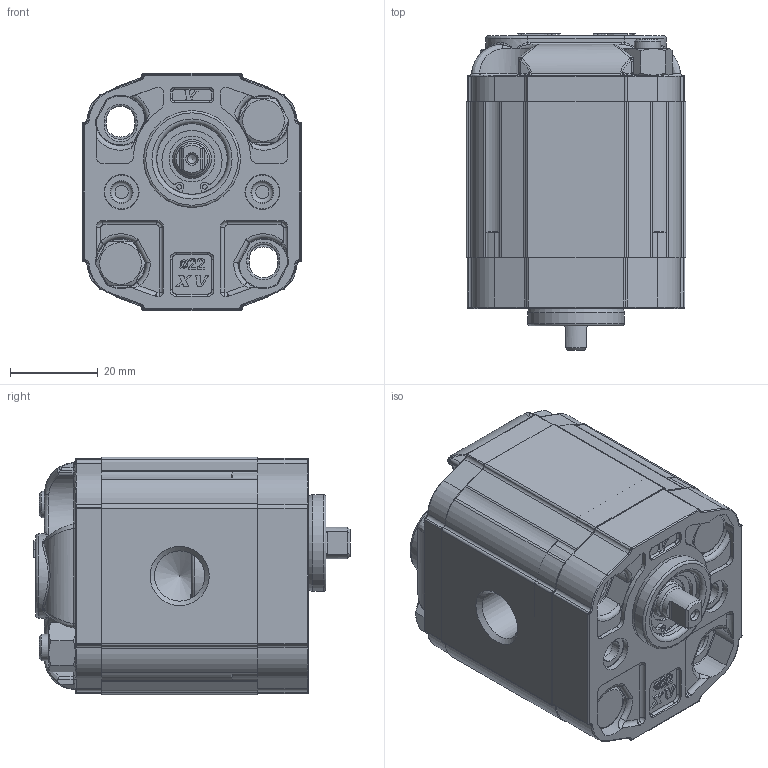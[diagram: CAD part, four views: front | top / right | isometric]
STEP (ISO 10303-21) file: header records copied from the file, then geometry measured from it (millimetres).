
FILE_DESCRIPTION( ( 'Unknown' ), '1' );
FILE_NAME( 'P:/montaggio_easy/output/STP/X0U0722BBBA.stp', 'Unknown', ( 'Unknown' ), ( 'Unknown' ), 'PSStep 14.0', 'Unknown', ' ' );
FILE_SCHEMA( ( 'AUTOMOTIVE_DESIGN { 1 0 10303 214 1 1 1 1 }' ) );
Length unit declared in the file: millimetre
Products named in the file (5): Assem1; X0U22; 0B; X0BBH35,5; XU017-A
Bounding box: 50 x 71.9 x 54 mm (x, y, z)
Surface area: 67382.9 mm2
Topology: 8 solids, 10 shells, 2870 faces, 7440 edges, 4732 vertices
Faces by surface type: plane 1414, cylinder 742, extrusion 248, torus 218, bspline 146, cone 86, sphere 16
Full cylindrical faces by diameter (mm): 1.053 x4, 2 x2, 5 x4, 6 x4, 6.5 x4, 7.16 x2, 7.5 x4, 7.9 x4, 7.92 x2, 8 x4, 9.318 x2, 10 x4, 10.445 x2, 11 x2, 11.445 x4, 14 x2, 16 x2, 16.2 x2, 16.8 x2, 22 x2
Entity records: 60597 total; most frequent: CARTESIAN_POINT 14408, ORIENTED_EDGE 7222, DIRECTION 7045, EDGE_CURVE 3611, AXIS2_PLACEMENT_3D 2384, VERTEX_POINT 2340, VECTOR 2277, LINE 2153
